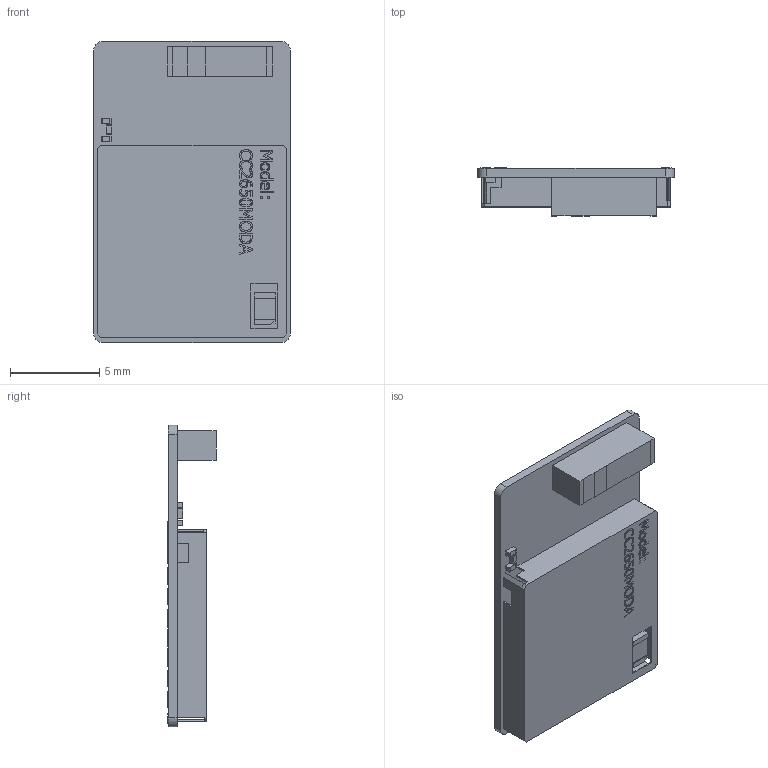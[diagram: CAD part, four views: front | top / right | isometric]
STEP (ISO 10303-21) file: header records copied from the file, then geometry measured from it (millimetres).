
FILE_DESCRIPTION (( 'STEP AP214' ), '1' );
FILE_NAME ('User Library-CC2650MODA.STEP', '2019-03-12T13:32:19', ( '' ), ( '' ), 'SwSTEP 2.0', 'SolidWorks 2019', '' );
FILE_SCHEMA (( 'AUTOMOTIVE_DESIGN' ));
Length unit declared in the file: millimetre
Products named in the file (1): User Library-CC2650MODA
Bounding box: 11 x 2.7 x 16.9 mm (x, y, z)
Volume: 130.9 mm3; surface area: 790.5 mm2
Topology: 1 solids, 1 shells, 512 faces, 1352 edges, 899 vertices
Faces by surface type: plane 363, bspline 141, cylinder 8
Entity records: 17579 total; most frequent: CARTESIAN_POINT 4603, ORIENTED_EDGE 2704, DIRECTION 1828, EDGE_CURVE 1352, VECTOR 1052, LINE 1052, VERTEX_POINT 899, EDGE_LOOP 581
